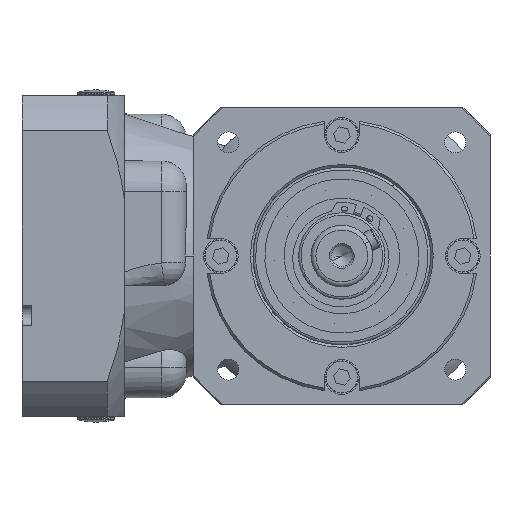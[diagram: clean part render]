
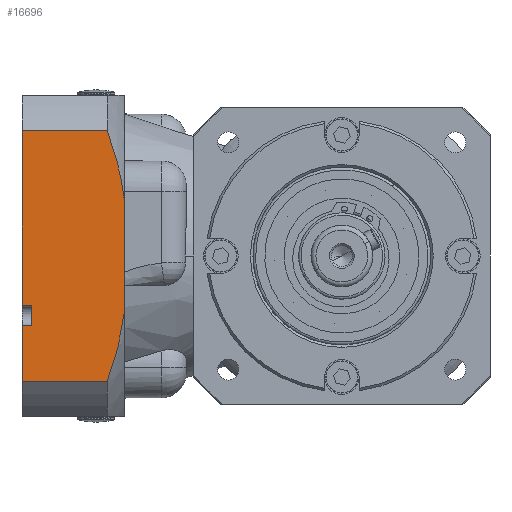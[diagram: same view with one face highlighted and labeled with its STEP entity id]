
A CAD part, left-side view. The second image highlights one B-rep face of the part: STEP entity #16696.
In plain terms, the highlighted planar face has unit normal (-1, 0, 0).
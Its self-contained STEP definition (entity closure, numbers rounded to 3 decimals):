
#54 = ORIENTED_EDGE ( 'NONE', *, *, #43833, .T. ) ;
#938 = CARTESIAN_POINT ( 'NONE',  ( 77.5, 95.052, -50.806 ) ) ;
#2244 = VERTEX_POINT ( 'NONE', #2762 ) ;
#2323 = CARTESIAN_POINT ( 'NONE',  ( 77.5, 129.5, -20. ) ) ;
#2714 = LINE ( 'NONE', #25318, #40242 ) ;
#2762 = CARTESIAN_POINT ( 'NONE',  ( 77.5, 88., 22.62 ) ) ;
#2911 = ORIENTED_EDGE ( 'NONE', *, *, #32135, .F. ) ;
#3084 = DIRECTION ( 'NONE',  ( 0., 0., 1. ) ) ;
#3920 = VERTEX_POINT ( 'NONE', #38814 ) ;
#5409 = LINE ( 'NONE', #46803, #41777 ) ;
#5761 = ORIENTED_EDGE ( 'NONE', *, *, #10010, .F. ) ;
#6232 = CARTESIAN_POINT ( 'NONE',  ( 77.5, 89.598, 32.244 ) ) ;
#6651 = EDGE_CURVE ( 'NONE', #44361, #44478, #22805, .T. ) ;
#7759 = CARTESIAN_POINT ( 'NONE',  ( 77.5, 129.5, -28. ) ) ;
#8791 = EDGE_CURVE ( 'NONE', #9923, #34210, #18661, .T. ) ;
#9654 = DIRECTION ( 'NONE',  ( 0., -1., 0. ) ) ;
#9923 = VERTEX_POINT ( 'NONE', #10044 ) ;
#10010 = EDGE_CURVE ( 'NONE', #34845, #17613, #39581, .T. ) ;
#10044 = CARTESIAN_POINT ( 'NONE',  ( 77.5, 129.5, 50.806 ) ) ;
#10199 = DIRECTION ( 'NONE',  ( 0., 0., 1. ) ) ;
#10303 = CARTESIAN_POINT ( 'NONE',  ( 77.5, 125.5, -28. ) ) ;
#10544 = PLANE ( 'NONE',  #42721 ) ;
#11716 = EDGE_CURVE ( 'NONE', #46991, #44478, #5409, .T. ) ;
#11973 = ORIENTED_EDGE ( 'NONE', *, *, #46922, .F. ) ;
#12316 = CARTESIAN_POINT ( 'NONE',  ( 77.5, 95.052, 50.806 ) ) ;
#13381 = CARTESIAN_POINT ( 'NONE',  ( 77.5, 88.322, 25.033 ) ) ;
#13494 = DIRECTION ( 'NONE',  ( 0., 1., 0. ) ) ;
#13536 = CARTESIAN_POINT ( 'NONE',  ( 77.5, 88., 22.62 ) ) ;
#13647 = EDGE_LOOP ( 'NONE', ( #5761, #54, #2911, #31437, #20695, #36952, #11973, #36734, #19091, #36989 ) ) ;
#13883 = CARTESIAN_POINT ( 'NONE',  ( 77.5, 91.815, -41.566 ) ) ;
#14282 = VECTOR ( 'NONE', #40536, 1000. ) ;
#15446 = VECTOR ( 'NONE', #3084, 1000. ) ;
#16448 = CARTESIAN_POINT ( 'NONE',  ( 77.5, 129.5, -20. ) ) ;
#16696 = ADVANCED_FACE ( 'NONE', ( #42830 ), #10544, .F. ) ;
#16870 = CARTESIAN_POINT ( 'NONE',  ( 77.5, 93.288, 46.305 ) ) ;
#17613 = VERTEX_POINT ( 'NONE', #938 ) ;
#18005 = CARTESIAN_POINT ( 'NONE',  ( 77.5, 88., -22.62 ) ) ;
#18661 = LINE ( 'NONE', #23987, #40301 ) ;
#19091 = ORIENTED_EDGE ( 'NONE', *, *, #11716, .F. ) ;
#19211 = CARTESIAN_POINT ( 'NONE',  ( 77.5, 88., -22.62 ) ) ;
#20695 = ORIENTED_EDGE ( 'NONE', *, *, #35701, .F. ) ;
#21909 = CARTESIAN_POINT ( 'NONE',  ( 77.5, 129.5, -28. ) ) ;
#22302 = DIRECTION ( 'NONE',  ( 0., 0., -1. ) ) ;
#22805 = LINE ( 'NONE', #7759, #14282 ) ;
#23987 = CARTESIAN_POINT ( 'NONE',  ( 77.5, 85.5, 50.806 ) ) ;
#24679 = CARTESIAN_POINT ( 'NONE',  ( 77.5, 95.052, -50.806 ) ) ;
#24829 = CARTESIAN_POINT ( 'NONE',  ( 77.5, 88., 65. ) ) ;
#25318 = CARTESIAN_POINT ( 'NONE',  ( 77.5, 129.5, 65. ) ) ;
#25490 = DIRECTION ( 'NONE',  ( 1., 0., 0. ) ) ;
#26636 = EDGE_CURVE ( 'NONE', #17613, #46991, #32266, .T. ) ;
#27670 = CARTESIAN_POINT ( 'NONE',  ( 77.5, 95.052, 50.806 ) ) ;
#27689 = VECTOR ( 'NONE', #35032, 1000. ) ;
#29984 = VECTOR ( 'NONE', #13494, 1000. ) ;
#31273 = CARTESIAN_POINT ( 'NONE',  ( 77.5, 85.5, -50.806 ) ) ;
#31437 = ORIENTED_EDGE ( 'NONE', *, *, #8791, .F. ) ;
#31509 = VERTEX_POINT ( 'NONE', #16448 ) ;
#32048 = VECTOR ( 'NONE', #35054, 1000. ) ;
#32135 = EDGE_CURVE ( 'NONE', #34210, #2244, #46374, .T. ) ;
#32266 = LINE ( 'NONE', #31273, #29984 ) ;
#34210 = VERTEX_POINT ( 'NONE', #12316 ) ;
#34549 = CARTESIAN_POINT ( 'NONE',  ( 77.5, 125.5, 65. ) ) ;
#34845 = VERTEX_POINT ( 'NONE', #19211 ) ;
#35032 = DIRECTION ( 'NONE',  ( 0., 0., 1. ) ) ;
#35054 = DIRECTION ( 'NONE',  ( 0., -1., 0. ) ) ;
#35701 = EDGE_CURVE ( 'NONE', #31509, #9923, #2714, .T. ) ;
#36296 = CARTESIAN_POINT ( 'NONE',  ( 77.5, 88.639, -27.411 ) ) ;
#36734 = ORIENTED_EDGE ( 'NONE', *, *, #6651, .T. ) ;
#36952 = ORIENTED_EDGE ( 'NONE', *, *, #38051, .T. ) ;
#36989 = ORIENTED_EDGE ( 'NONE', *, *, #26636, .F. ) ;
#38051 = EDGE_CURVE ( 'NONE', #31509, #3920, #39454, .T. ) ;
#38381 = CARTESIAN_POINT ( 'NONE',  ( 77.5, 129.5, -50.806 ) ) ;
#38814 = CARTESIAN_POINT ( 'NONE',  ( 77.5, 125.5, -20. ) ) ;
#39217 = DIRECTION ( 'NONE',  ( 0., 0., 1. ) ) ;
#39454 = LINE ( 'NONE', #2323, #32048 ) ;
#39581 = B_SPLINE_CURVE_WITH_KNOTS ( 'NONE', 3,
 ( #18005, #36296, #42809, #13883, #46430, #24679 ),
 .UNSPECIFIED., .F., .F.,
 ( 4, 2, 4 ),
 ( 0.023, 0.037, 0.052 ),
 .UNSPECIFIED. ) ;
#40242 = VECTOR ( 'NONE', #10199, 1000. ) ;
#40301 = VECTOR ( 'NONE', #9654, 1000. ) ;
#40536 = DIRECTION ( 'NONE',  ( 0., 1., 0. ) ) ;
#41777 = VECTOR ( 'NONE', #39217, 1000. ) ;
#42141 = CARTESIAN_POINT ( 'NONE',  ( 77.5, 88.703, 27.44 ) ) ;
#42302 = CARTESIAN_POINT ( 'NONE',  ( 77.5, 91.85, 41.691 ) ) ;
#42704 = LINE ( 'NONE', #24829, #15446 ) ;
#42721 = AXIS2_PLACEMENT_3D ( 'NONE', #46280, #25490, #22302 ) ;
#42809 = CARTESIAN_POINT ( 'NONE',  ( 77.5, 89.507, -32.163 ) ) ;
#42830 = FACE_OUTER_BOUND ( 'NONE', #13647, .T. ) ;
#43627 = LINE ( 'NONE', #34549, #27689 ) ;
#43833 = EDGE_CURVE ( 'NONE', #34845, #2244, #42704, .T. ) ;
#44361 = VERTEX_POINT ( 'NONE', #10303 ) ;
#44478 = VERTEX_POINT ( 'NONE', #21909 ) ;
#45794 = CARTESIAN_POINT ( 'NONE',  ( 77.5, 90.109, 34.624 ) ) ;
#46280 = CARTESIAN_POINT ( 'NONE',  ( 77.5, 129.5, 65. ) ) ;
#46374 = B_SPLINE_CURVE_WITH_KNOTS ( 'NONE', 3,
 ( #27670, #16870, #42302, #45794, #6232, #42141, #13381, #13536 ),
 .UNSPECIFIED., .F., .F.,
 ( 4, 2, 2, 4 ),
 ( 0.525, 0.539, 0.546, 0.553 ),
 .UNSPECIFIED. ) ;
#46430 = CARTESIAN_POINT ( 'NONE',  ( 77.5, 93.254, -46.217 ) ) ;
#46803 = CARTESIAN_POINT ( 'NONE',  ( 77.5, 129.5, 65. ) ) ;
#46922 = EDGE_CURVE ( 'NONE', #44361, #3920, #43627, .T. ) ;
#46991 = VERTEX_POINT ( 'NONE', #38381 ) ;
